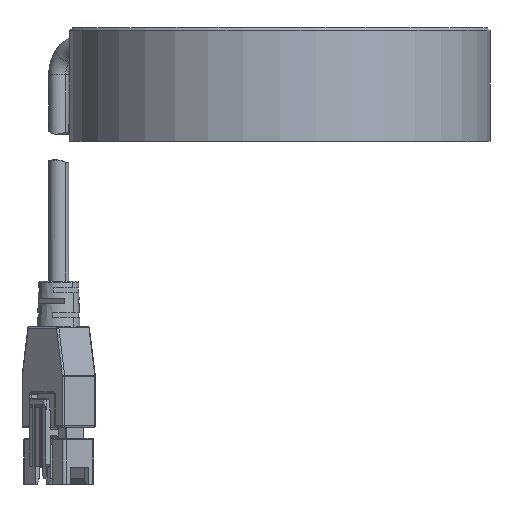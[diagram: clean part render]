
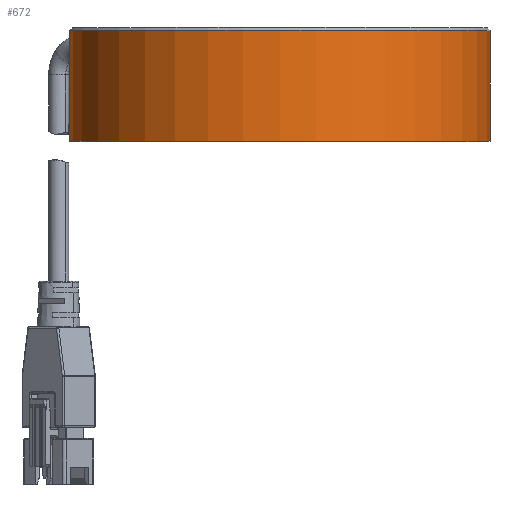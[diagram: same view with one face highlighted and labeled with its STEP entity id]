
A CAD part, top view. The second image highlights one B-rep face of the part: STEP entity #672.
In plain terms, the highlighted cylindrical face has radius 37 mm (diameter 74 mm), a partial arc.
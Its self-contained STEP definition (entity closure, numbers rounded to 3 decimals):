
#147=CARTESIAN_POINT('',(0.,-0.5,0.));
#148=DIRECTION('',(0.,-1.,0.));
#149=DIRECTION('',(1.,0.,0.));
#150=AXIS2_PLACEMENT_3D('',#147,#148,#149);
#161=DIRECTION('',(0.,1.,0.));
#162=VECTOR('',#161,19.5);
#163=CARTESIAN_POINT('',(37.,-20.,0.));
#164=LINE('',#163,#162);
#165=DIRECTION('',(0.,1.,0.));
#166=VECTOR('',#165,19.5);
#167=CARTESIAN_POINT('',(-37.,-20.,0.));
#168=LINE('',#167,#166);
#174=CARTESIAN_POINT('',(0.,-20.,0.));
#175=DIRECTION('',(0.,1.,0.));
#176=DIRECTION('',(-1.,0.,0.));
#177=AXIS2_PLACEMENT_3D('',#174,#175,#176);
#387=CARTESIAN_POINT('',(-37.,-0.5,0.));
#388=VERTEX_POINT('',#387);
#389=CARTESIAN_POINT('',(37.,-0.5,0.));
#390=VERTEX_POINT('',#389);
#391=CARTESIAN_POINT('',(-37.,-20.,0.));
#392=VERTEX_POINT('',#391);
#393=CARTESIAN_POINT('',(37.,-20.,0.));
#394=VERTEX_POINT('',#393);
#660=CARTESIAN_POINT('',(0.,-21.,0.));
#661=DIRECTION('',(0.,1.,0.));
#662=DIRECTION('',(1.,0.,0.));
#663=AXIS2_PLACEMENT_3D('',#660,#661,#662);
#664=CYLINDRICAL_SURFACE('',#663,37.);
#665=ORIENTED_EDGE('',*,*,#650,.T.);
#666=ORIENTED_EDGE('',*,*,#627,.F.);
#667=ORIENTED_EDGE('',*,*,#654,.F.);
#669=ORIENTED_EDGE('',*,*,#668,.F.);
#670=EDGE_LOOP('',(#665,#666,#667,#669));
#671=FACE_OUTER_BOUND('',#670,.F.);
#151=CIRCLE('',#150,37.);
#178=CIRCLE('',#177,37.);
#627=EDGE_CURVE('',#390,#388,#151,.T.);
#650=EDGE_CURVE('',#392,#388,#168,.T.);
#654=EDGE_CURVE('',#394,#390,#164,.T.);
#668=EDGE_CURVE('',#392,#394,#178,.T.);
#672=ADVANCED_FACE('',(#671),#664,.T.);
